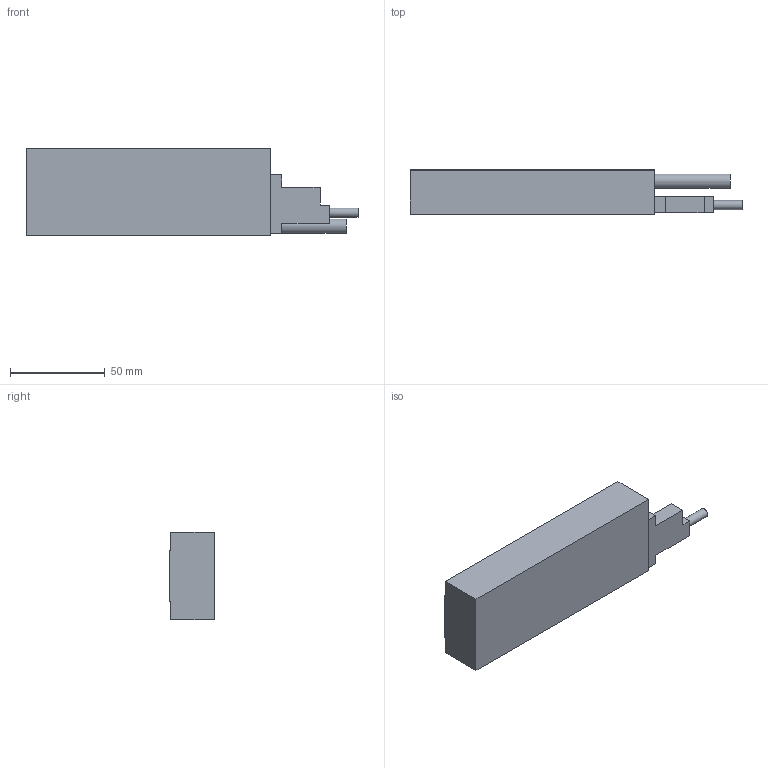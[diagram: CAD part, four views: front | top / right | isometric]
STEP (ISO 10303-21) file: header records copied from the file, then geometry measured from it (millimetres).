
FILE_DESCRIPTION(/* description */ ('STEP AP242 Edition 2','CAx-IF Rec.Pracs.---Representation and Presentation of Product Manufacturing Information (PMI)---4.0---2014-10-13','CAx-IF Rec.Pracs.---3D Tessellated Geometry---0.4---2014-09-14','2;1','CAx-IF Rec.Pracs.---User Defined Attributes---1.5---2016-08-15'),/* implementation_level */ '2;1');
FILE_NAME(/* name */ 'CMI30S',/* time_stamp */ '2026-04-13T00:53:49Z',/* author */ (''),/* organization */ (''),/* preprocessor_version */ 'ST-DEVELOPER v20',/* originating_system */ 'ONSHAPE BY PTC INC, 1.213',/* authorisation */ ' ');
FILE_SCHEMA (('AP242_MANAGED_MODEL_BASED_3D_ENGINEERING_MIM_LF { 1 0 10303 442 3 1 4 }'));
Length unit declared in the file: metre
Products named in the file (1): CMI30S
Bounding box: 175 x 23.5 x 46 mm (x, y, z)
Volume: 143572.7 mm3; surface area: 24759.7 mm2
Topology: 1 solids, 2 shells, 70 faces, 170 edges, 109 vertices
Faces by surface type: plane 33, cylinder 23, cone 14
Full cylindrical faces by diameter (mm): 2.5 x2, 3.3 x12, 3.4 x2, 4.9 x2, 7.5 x1
Entity records: 1804 total; most frequent: DIRECTION 310, CARTESIAN_POINT 299, ORIENTED_EDGE 242, FACE_BOUND 122, EDGE_CURVE 121, AXIS2_PLACEMENT_3D 118, EDGE_LOOP 108, VERTEX_POINT 107
